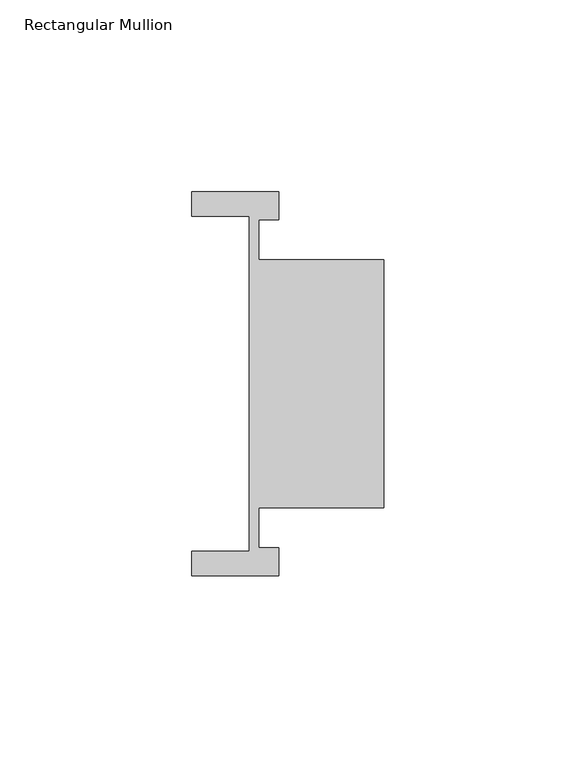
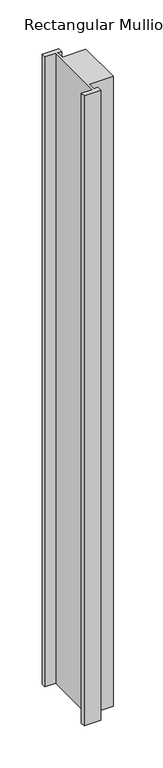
"""IFC4 building model written with IfcOpenShell, lengths in millimetres: member geometry, Rectangular Mullion : Trim-Horizontal-Teknion-Focus-FWSC."""

from ifc_helpers import new_model, si_unit, frame, origin, place, context, project, spatial, polyline, outline, extrude, source, transform, mapped, element, save


def rectangular_mullion_0c8c3a63(model_context):
    return source(origin(), model_context, "Body", "SweptSolid", [
        extrude(outline(polyline([(-27.399989, 49.9999985), (-27.399989, 42.725), (-32.499989, 42.725), (-32.499989, 32.3000006), (0.0, 32.3000006), (0.0, -32.3000006), (-32.499989, -32.3000006), (-32.499989, -42.725), (-27.399989, -42.725), (-27.399989, -49.9999985), (-49.9999974, -49.9999985), (-49.9999974, -43.6999985), (-34.999989, -43.6999985), (-34.999989, 43.6999985), (-49.9999974, 43.6999985), (-49.9999974, 49.9999985), (-27.399989, 49.9999985)])), frame((0.0, 0.0, -914.4), z_axis=(0.0, 0.0, 1.0), x_axis=(1.0, 0.0, 0.0)), (0.0, 0.0, 1.0), 914.4),
    ])


if __name__ == "__main__":
    model = new_model("IFC4")
    model_context = context("Model", 3, world=origin())
    ifc_project = project(units=[si_unit("LENGTHUNIT", "METRE", prefix="MILLI")], contexts=[model_context])
    site = spatial("IfcSite", under=ifc_project)
    building = spatial("IfcBuilding", under=site)
    placement = place(None, origin())
    rectangular_mullion_shape = rectangular_mullion_0c8c3a63(model_context)
    element("IfcMember", 1, ObjectType="Rectangular Mullion : Trim-Horizontal-Teknion-Focus-FWSC", at=placement, inside=building, context=model_context, shape_type="MappedRepresentation", body=[
        mapped(rectangular_mullion_shape, transform((0.0, 0.0, 0.0), x_axis=(1.0, 0.0, 0.0), y_axis=(0.0, 1.0, 0.0), z_axis=(0.0, 0.0, 1.0))),
    ])
    save(model, "model.ifc")
